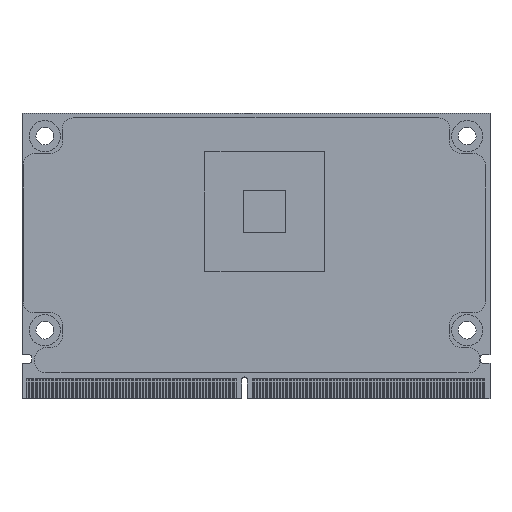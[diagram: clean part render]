
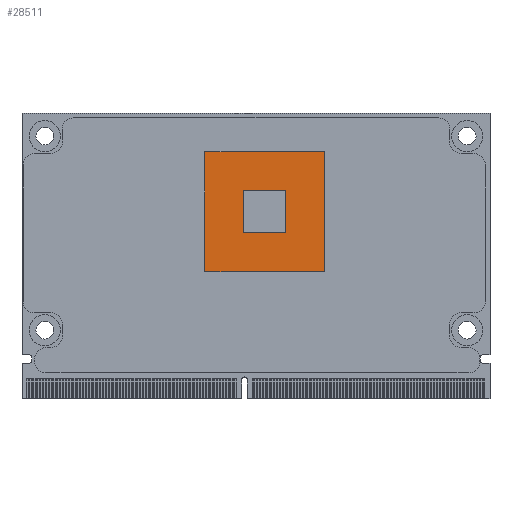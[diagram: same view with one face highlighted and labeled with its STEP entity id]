
A CAD part, top view. The second image highlights one B-rep face of the part: STEP entity #28511.
In plain terms, the highlighted planar face has unit normal (0, 0, 1).
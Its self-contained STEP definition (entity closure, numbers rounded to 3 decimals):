
#28469=AXIS2_PLACEMENT_3D('Plane Axis2P3D',#28466,#28467,#28468) ;
#28379=CARTESIAN_POINT('Vertex',(38.845,29.066,1.06)) ;
#28386=CARTESIAN_POINT('Vertex',(38.845,36.466,1.06)) ;
#28389=CARTESIAN_POINT('Line Origine',(38.845,32.766,1.06)) ;
#28406=CARTESIAN_POINT('Line Origine',(42.545,29.066,1.06)) ;
#28410=CARTESIAN_POINT('Vertex',(46.245,29.066,1.06)) ;
#28434=CARTESIAN_POINT('Vertex',(46.245,36.466,1.06)) ;
#28437=CARTESIAN_POINT('Line Origine',(46.245,32.766,1.06)) ;
#28454=CARTESIAN_POINT('Line Origine',(42.545,36.466,1.06)) ;
#28466=CARTESIAN_POINT('Axis2P3D Location',(53.045,22.266,1.06)) ;
#28471=CARTESIAN_POINT('Line Origine',(42.545,22.266,1.06)) ;
#28475=CARTESIAN_POINT('Vertex',(32.045,22.266,1.06)) ;
#28477=CARTESIAN_POINT('Vertex',(53.045,22.266,1.06)) ;
#28480=CARTESIAN_POINT('Line Origine',(53.045,32.766,1.06)) ;
#28484=CARTESIAN_POINT('Vertex',(53.045,43.266,1.06)) ;
#28487=CARTESIAN_POINT('Line Origine',(42.545,43.266,1.06)) ;
#28491=CARTESIAN_POINT('Vertex',(32.045,43.266,1.06)) ;
#28494=CARTESIAN_POINT('Line Origine',(32.045,32.766,1.06)) ;
#28390=DIRECTION('Vector Direction',(0.,-1.,0.)) ;
#28407=DIRECTION('Vector Direction',(-1.,0.,0.)) ;
#28438=DIRECTION('Vector Direction',(0.,1.,0.)) ;
#28455=DIRECTION('Vector Direction',(1.,0.,0.)) ;
#28467=DIRECTION('Axis2P3D Direction',(0.,0.,1.)) ;
#28468=DIRECTION('Axis2P3D XDirection',(-1.,0.,0.)) ;
#28472=DIRECTION('Vector Direction',(-1.,0.,0.)) ;
#28481=DIRECTION('Vector Direction',(0.,-1.,0.)) ;
#28488=DIRECTION('Vector Direction',(-1.,0.,0.)) ;
#28495=DIRECTION('Vector Direction',(0.,-1.,0.)) ;
#28391=VECTOR('Line Direction',#28390,1.) ;
#28408=VECTOR('Line Direction',#28407,1.) ;
#28439=VECTOR('Line Direction',#28438,1.) ;
#28456=VECTOR('Line Direction',#28455,1.) ;
#28473=VECTOR('Line Direction',#28472,1.) ;
#28482=VECTOR('Line Direction',#28481,1.) ;
#28489=VECTOR('Line Direction',#28488,1.) ;
#28496=VECTOR('Line Direction',#28495,1.) ;
#28500=ORIENTED_EDGE('',*,*,#28479,.T.) ;
#28501=ORIENTED_EDGE('',*,*,#28486,.F.) ;
#28502=ORIENTED_EDGE('',*,*,#28493,.T.) ;
#28503=ORIENTED_EDGE('',*,*,#28498,.T.) ;
#28506=ORIENTED_EDGE('',*,*,#28441,.F.) ;
#28507=ORIENTED_EDGE('',*,*,#28412,.T.) ;
#28508=ORIENTED_EDGE('',*,*,#28393,.F.) ;
#28509=ORIENTED_EDGE('',*,*,#28458,.T.) ;
#28510=FACE_BOUND('',#28505,.T.) ;
#28511=ADVANCED_FACE('1945\\1363\\MANIFOLD_SOLID_BREP #1805',(#28504,#28510),#28470,.T.) ;
#28393=EDGE_CURVE('',#28387,#28380,#28392,.T.) ;
#28412=EDGE_CURVE('',#28411,#28380,#28409,.T.) ;
#28441=EDGE_CURVE('',#28411,#28435,#28440,.T.) ;
#28458=EDGE_CURVE('',#28387,#28435,#28457,.T.) ;
#28479=EDGE_CURVE('',#28476,#28478,#28474,.F.) ;
#28486=EDGE_CURVE('',#28485,#28478,#28483,.T.) ;
#28493=EDGE_CURVE('',#28485,#28492,#28490,.T.) ;
#28498=EDGE_CURVE('',#28492,#28476,#28497,.T.) ;
#28499=EDGE_LOOP('',(#28500,#28501,#28502,#28503)) ;
#28505=EDGE_LOOP('',(#28506,#28507,#28508,#28509)) ;
#28504=FACE_OUTER_BOUND('',#28499,.T.) ;
#28392=LINE('Line',#28389,#28391) ;
#28409=LINE('Line',#28406,#28408) ;
#28440=LINE('Line',#28437,#28439) ;
#28457=LINE('Line',#28454,#28456) ;
#28474=LINE('Line',#28471,#28473) ;
#28483=LINE('Line',#28480,#28482) ;
#28490=LINE('Line',#28487,#28489) ;
#28497=LINE('Line',#28494,#28496) ;
#28470=PLANE('Plane',#28469) ;
#28380=VERTEX_POINT('',#28379) ;
#28387=VERTEX_POINT('',#28386) ;
#28411=VERTEX_POINT('',#28410) ;
#28435=VERTEX_POINT('',#28434) ;
#28476=VERTEX_POINT('',#28475) ;
#28478=VERTEX_POINT('',#28477) ;
#28485=VERTEX_POINT('',#28484) ;
#28492=VERTEX_POINT('',#28491) ;
